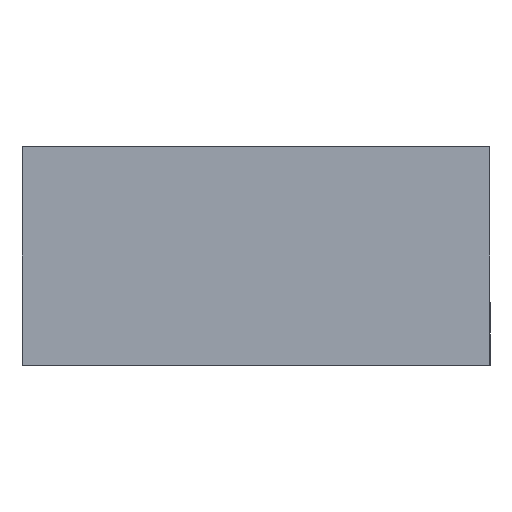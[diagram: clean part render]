
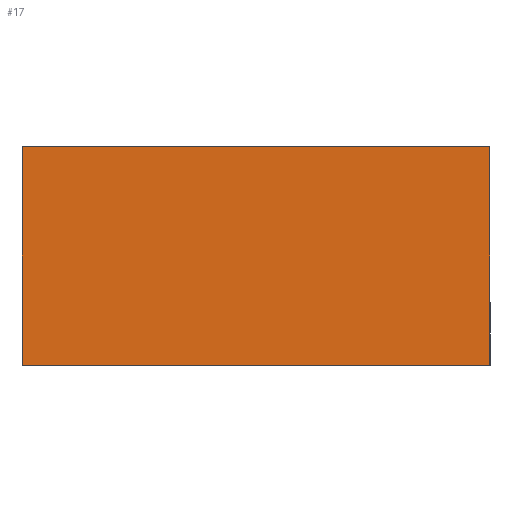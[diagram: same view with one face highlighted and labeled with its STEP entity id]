
A CAD part, left-side view. The second image highlights one B-rep face of the part: STEP entity #17.
In plain terms, the highlighted planar face has unit normal (-1, 0, 0).
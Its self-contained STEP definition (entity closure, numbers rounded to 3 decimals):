
#17 = ADVANCED_FACE('',(#18),#32,.F.);
#18 = FACE_BOUND('',#19,.F.);
#19 = EDGE_LOOP('',(#20,#55,#83,#111));
#20 = ORIENTED_EDGE('',*,*,#21,.F.);
#21 = EDGE_CURVE('',#22,#24,#26,.T.);
#22 = VERTEX_POINT('',#23);
#23 = CARTESIAN_POINT('',(0.2,40.,0.));
#24 = VERTEX_POINT('',#25);
#25 = CARTESIAN_POINT('',(0.2,40.,14.));
#26 = SURFACE_CURVE('',#27,(#31,#43),.PCURVE_S1.);
#27 = LINE('',#28,#29);
#28 = CARTESIAN_POINT('',(0.2,40.,-1.));
#29 = VECTOR('',#30,1.);
#30 = DIRECTION('',(0.,0.,1.));
#31 = PCURVE('',#32,#37);
#32 = PLANE('',#33);
#33 = AXIS2_PLACEMENT_3D('',#34,#35,#36);
#34 = CARTESIAN_POINT('',(0.2,0.2,0.));
#35 = DIRECTION('',(1.,0.,-0.));
#36 = DIRECTION('',(0.,0.,1.));
#37 = DEFINITIONAL_REPRESENTATION('',(#38),#42);
#38 = LINE('',#39,#40);
#39 = CARTESIAN_POINT('',(-1.,-39.8));
#40 = VECTOR('',#41,1.);
#41 = DIRECTION('',(1.,0.));
#42 = ( GEOMETRIC_REPRESENTATION_CONTEXT(2) 
PARAMETRIC_REPRESENTATION_CONTEXT() REPRESENTATION_CONTEXT('2D SPACE',''
  ) );
#43 = PCURVE('',#44,#49);
#44 = PLANE('',#45);
#45 = AXIS2_PLACEMENT_3D('',#46,#47,#48);
#46 = CARTESIAN_POINT('',(0.2,40.,-1.));
#47 = DIRECTION('',(-0.,1.,0.));
#48 = DIRECTION('',(0.,0.,1.));
#49 = DEFINITIONAL_REPRESENTATION('',(#50),#54);
#50 = LINE('',#51,#52);
#51 = CARTESIAN_POINT('',(0.,0.));
#52 = VECTOR('',#53,1.);
#53 = DIRECTION('',(1.,0.));
#54 = ( GEOMETRIC_REPRESENTATION_CONTEXT(2) 
PARAMETRIC_REPRESENTATION_CONTEXT() REPRESENTATION_CONTEXT('2D SPACE',''
  ) );
#55 = ORIENTED_EDGE('',*,*,#56,.T.);
#56 = EDGE_CURVE('',#22,#57,#59,.T.);
#57 = VERTEX_POINT('',#58);
#58 = CARTESIAN_POINT('',(0.2,70.,0.));
#59 = SURFACE_CURVE('',#60,(#64,#71),.PCURVE_S1.);
#60 = LINE('',#61,#62);
#61 = CARTESIAN_POINT('',(0.2,0.2,0.));
#62 = VECTOR('',#63,1.);
#63 = DIRECTION('',(-0.,1.,0.));
#64 = PCURVE('',#32,#65);
#65 = DEFINITIONAL_REPRESENTATION('',(#66),#70);
#66 = LINE('',#67,#68);
#67 = CARTESIAN_POINT('',(0.,0.));
#68 = VECTOR('',#69,1.);
#69 = DIRECTION('',(0.,-1.));
#70 = ( GEOMETRIC_REPRESENTATION_CONTEXT(2) 
PARAMETRIC_REPRESENTATION_CONTEXT() REPRESENTATION_CONTEXT('2D SPACE',''
  ) );
#71 = PCURVE('',#72,#77);
#72 = PLANE('',#73);
#73 = AXIS2_PLACEMENT_3D('',#74,#75,#76);
#74 = CARTESIAN_POINT('',(0.2,0.2,0.));
#75 = DIRECTION('',(0.,0.,1.));
#76 = DIRECTION('',(1.,0.,-0.));
#77 = DEFINITIONAL_REPRESENTATION('',(#78),#82);
#78 = LINE('',#79,#80);
#79 = CARTESIAN_POINT('',(0.,0.));
#80 = VECTOR('',#81,1.);
#81 = DIRECTION('',(0.,1.));
#82 = ( GEOMETRIC_REPRESENTATION_CONTEXT(2) 
PARAMETRIC_REPRESENTATION_CONTEXT() REPRESENTATION_CONTEXT('2D SPACE',''
  ) );
#83 = ORIENTED_EDGE('',*,*,#84,.T.);
#84 = EDGE_CURVE('',#57,#85,#87,.T.);
#85 = VERTEX_POINT('',#86);
#86 = CARTESIAN_POINT('',(0.2,70.,14.));
#87 = SURFACE_CURVE('',#88,(#92,#99),.PCURVE_S1.);
#88 = LINE('',#89,#90);
#89 = CARTESIAN_POINT('',(0.2,70.,-1.));
#90 = VECTOR('',#91,1.);
#91 = DIRECTION('',(0.,0.,1.));
#92 = PCURVE('',#32,#93);
#93 = DEFINITIONAL_REPRESENTATION('',(#94),#98);
#94 = LINE('',#95,#96);
#95 = CARTESIAN_POINT('',(-1.,-69.8));
#96 = VECTOR('',#97,1.);
#97 = DIRECTION('',(1.,0.));
#98 = ( GEOMETRIC_REPRESENTATION_CONTEXT(2) 
PARAMETRIC_REPRESENTATION_CONTEXT() REPRESENTATION_CONTEXT('2D SPACE',''
  ) );
#99 = PCURVE('',#100,#105);
#100 = PLANE('',#101);
#101 = AXIS2_PLACEMENT_3D('',#102,#103,#104);
#102 = CARTESIAN_POINT('',(0.2,70.,-1.));
#103 = DIRECTION('',(-0.,1.,0.));
#104 = DIRECTION('',(0.,0.,1.));
#105 = DEFINITIONAL_REPRESENTATION('',(#106),#110);
#106 = LINE('',#107,#108);
#107 = CARTESIAN_POINT('',(0.,0.));
#108 = VECTOR('',#109,1.);
#109 = DIRECTION('',(1.,0.));
#110 = ( GEOMETRIC_REPRESENTATION_CONTEXT(2) 
PARAMETRIC_REPRESENTATION_CONTEXT() REPRESENTATION_CONTEXT('2D SPACE',''
  ) );
#111 = ORIENTED_EDGE('',*,*,#112,.F.);
#112 = EDGE_CURVE('',#24,#85,#113,.T.);
#113 = SURFACE_CURVE('',#114,(#118,#125),.PCURVE_S1.);
#114 = LINE('',#115,#116);
#115 = CARTESIAN_POINT('',(0.2,0.2,14.));
#116 = VECTOR('',#117,1.);
#117 = DIRECTION('',(0.,1.,0.));
#118 = PCURVE('',#32,#119);
#119 = DEFINITIONAL_REPRESENTATION('',(#120),#124);
#120 = LINE('',#121,#122);
#121 = CARTESIAN_POINT('',(14.,0.));
#122 = VECTOR('',#123,1.);
#123 = DIRECTION('',(0.,-1.));
#124 = ( GEOMETRIC_REPRESENTATION_CONTEXT(2) 
PARAMETRIC_REPRESENTATION_CONTEXT() REPRESENTATION_CONTEXT('2D SPACE',''
  ) );
#125 = PCURVE('',#126,#131);
#126 = PLANE('',#127);
#127 = AXIS2_PLACEMENT_3D('',#128,#129,#130);
#128 = CARTESIAN_POINT('',(0.2,0.2,14.));
#129 = DIRECTION('',(0.,0.,1.));
#130 = DIRECTION('',(1.,0.,-0.));
#131 = DEFINITIONAL_REPRESENTATION('',(#132),#136);
#132 = LINE('',#133,#134);
#133 = CARTESIAN_POINT('',(0.,0.));
#134 = VECTOR('',#135,1.);
#135 = DIRECTION('',(0.,1.));
#136 = ( GEOMETRIC_REPRESENTATION_CONTEXT(2) 
PARAMETRIC_REPRESENTATION_CONTEXT() REPRESENTATION_CONTEXT('2D SPACE',''
  ) );
